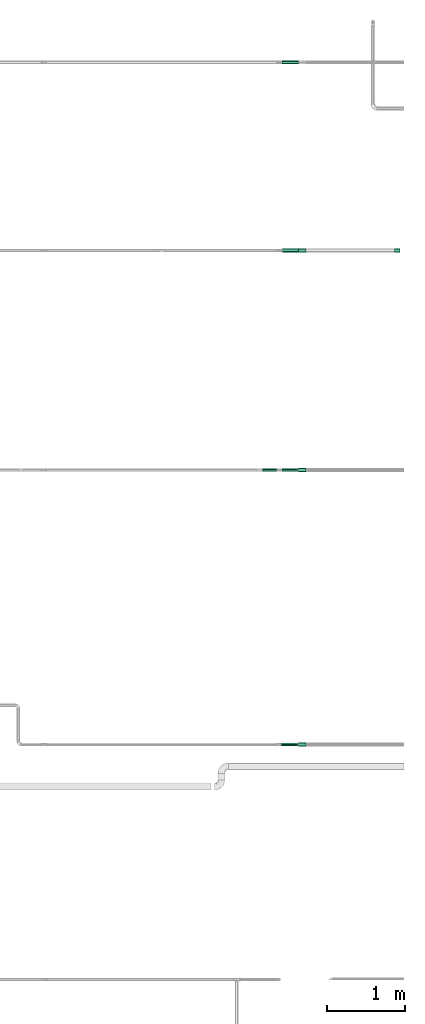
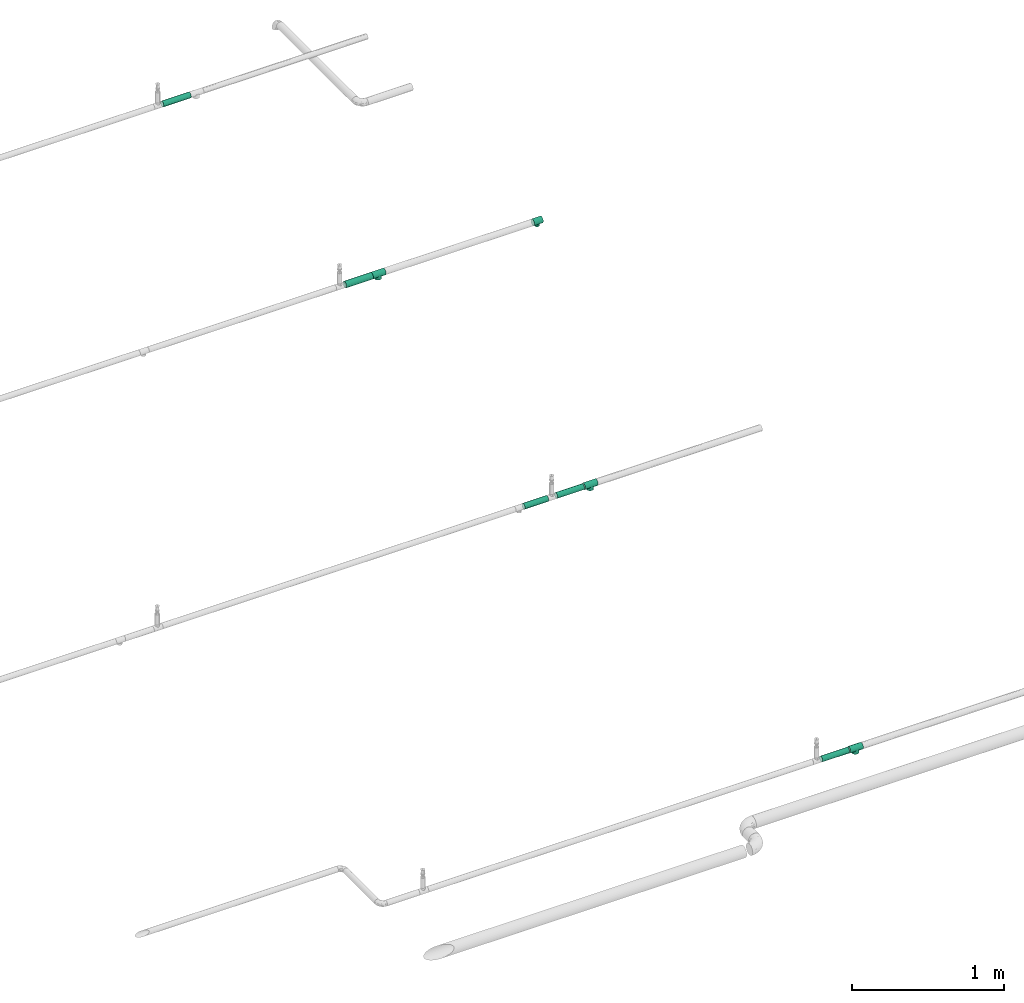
# One storey, part 7 of 94: 5 flow segments, 4 flow fittings.
"""IFC2X3 building model written with IfcOpenShell, lengths in millimetres."""

from ifc_helpers import new_model, entity, si_unit, converted_unit, derived_unit, direction, frame, origin_with_axes, origin_2d_with_axis, place, context, subcontext, project, spatial, hollow_circle, extrude, open_shell, surface_model, source, transform, mapped, type_object, element, save


model = new_model("IFC2X3")

# Units and contexts
model_context = context("Model", 3, precision=0.01, world=frame((0.0, 4.29681676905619e-09, 0.0)), true_north=direction((4.01073788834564e-13, 1.0)))
plan_context = context("Plan", 3, precision=0.01, world=frame((0.0, 4.29681676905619e-09, 0.0)), true_north=direction((4.01073788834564e-13, 1.0)))
body_context = subcontext(model_context, "Body", "Model", "MODEL_VIEW")
ifc_project = project(units=[converted_unit("PLANEANGLEUNIT", "DEGREE", entity("IfcPositiveLengthMeasure", 0.0174532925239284), si_unit("PLANEANGLEUNIT", "RADIAN"), dimensions=[0, 0, 0, 0, 0, 0, 0]), si_unit("AREAUNIT", "SQUARE_METRE"), si_unit("LENGTHUNIT", "METRE", prefix="MILLI"), si_unit("MASSUNIT", "GRAM", prefix="KILO"), si_unit("POWERUNIT", "WATT"), si_unit("PRESSUREUNIT", "PASCAL"), si_unit("FORCEUNIT", "NEWTON", prefix="KILO"), si_unit("ELECTRICCURRENTUNIT", "AMPERE"), si_unit("THERMODYNAMICTEMPERATUREUNIT", "DEGREE_CELSIUS"), si_unit("TIMEUNIT", "SECOND"), si_unit("VOLUMEUNIT", "CUBIC_METRE"), derived_unit("LINEARVELOCITYUNIT", [(si_unit("LENGTHUNIT", "METRE"), 1), (si_unit("TIMEUNIT", "SECOND"), -1)]), derived_unit("VOLUMETRICFLOWRATEUNIT", [(si_unit("VOLUMEUNIT", "CUBIC_METRE"), 1), (si_unit("TIMEUNIT", "SECOND"), -1)]), derived_unit("THERMALTRANSMITTANCEUNIT", [(si_unit("POWERUNIT", "WATT"), 1), (si_unit("THERMODYNAMICTEMPERATUREUNIT", "KELVIN"), -1), (si_unit("AREAUNIT", "SQUARE_METRE"), -1)])], contexts=[model_context, plan_context])

# Site, building, storey
site_placement = place(None, frame((0.0, -4.29681676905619e-09, 0.0), z_axis=(0.0, 0.0, 1.0), x_axis=(1.0, 0.0, 0.0)))
site = spatial("IfcSite", under=ifc_project, at=site_placement, CompositionType="ELEMENT")
building_placement = place(site_placement, frame((0.0, 4.29681676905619e-09, 0.0), z_axis=(0.0, 0.0, 1.0), x_axis=(1.0, 0.0, 0.0)))
building = spatial("IfcBuilding", under=site, at=building_placement, Name="mc-building", CompositionType="ELEMENT")
storey_placement = place(building_placement, frame((0.0, 0.0, 200300.0), z_axis=(0.0, 0.0, 1.0), x_axis=(1.0, 0.0, 0.0)))
storey = spatial("IfcBuildingStorey", under=building, at=storey_placement, Name="Nivå C", CompositionType="ELEMENT", Elevation=200300.0)

# Flow fittings
pipe_fitting_type = type_object("IfcPipeFittingType", Name="magi_pipe_fe_tee_centric_90_NOR", PredefinedType="JUNCTION")
shared_shape_1 = source(origin_with_axes(), body_context, "Body", "SurfaceModel", [
    surface_model("IfcShellBasedSurfaceModel", [(-33.8, 0.0, -24.2), (-33.8, -6.26342, -23.37541), (-33.8, 6.26342, -23.37541), (-33.8, 12.1, -20.95781), (-33.8, 17.11198, -17.11198), (-33.8, 20.95781, -12.1), (-33.8, -23.37541, -6.26342), (-33.8, 23.37541, -6.26342), (-33.8, -17.11198, -17.11198), (-33.8, -20.95781, -12.1), (-33.8, -12.1, -20.95781), (-33.8, -24.2, 0.0), (-33.8, -23.37541, 6.26342), (-33.8, 20.95781, 12.1), (-33.8, 23.37541, 6.26342), (-33.8, 24.2, 0.0), (-33.8, 12.1, 20.95781), (-33.8, 17.11198, 17.11198), (-33.8, -17.11198, 17.11198), (-33.8, 6.26342, 23.37541), (-33.8, -20.95781, 12.1), (-33.8, -12.1, 20.95781), (-33.8, -6.26342, 23.37541), (-33.8, 0.0, 24.2), (33.8, 6.26342, -23.37541), (33.8, -6.26342, -23.37541), (33.8, 0.0, -24.2), (33.8, 17.11198, -17.11198), (33.8, 12.1, -20.95781), (33.8, -23.37541, -6.26342), (33.8, 20.95781, -12.1), (33.8, 23.37541, -6.26342), (33.8, -17.11198, -17.11198), (33.8, -12.1, -20.95781), (33.8, -20.95781, -12.1), (33.8, -24.2, 0.0), (33.8, 24.2, 0.0), (33.8, 23.37541, 6.26342), (33.8, 20.95781, 12.1), (33.8, -23.37541, 6.26342), (33.8, -17.11198, 17.11198), (33.8, 12.1, 20.95781), (33.8, 17.11198, 17.11198), (33.8, 6.26342, 23.37541), (33.8, -20.95781, 12.1), (33.8, -12.1, 20.95781), (33.8, 0.0, 24.2), (33.8, -6.26342, 23.37541), (15.81824, -23.45734, 5.94922), (16.9, -24.2, 0.0), (12.87025, -21.57947, 10.95293), (33.8, -19.0349, 14.60599), (8.52813, -19.30697, 14.59044), (3.03527, -17.5853, 16.6252), (-3.04044, -17.58619, 16.62425), (-8.52961, -19.30762, 14.58958), (-33.8, -19.0349, 14.60599), (-16.9, -24.2, 0.0), (-15.81885, -23.45775, 5.9476), (-12.87368, -21.58151, 10.9489), (3.03527, -17.5853, -16.6252), (33.8, -19.0349, -14.60599), (8.52813, -19.30697, -14.59044), (-8.52961, -19.30762, -14.58958), (-33.8, -19.0349, -14.60599), (12.87025, -21.57947, -10.95293), (-3.04044, -17.58619, -16.62425), (15.81824, -23.45734, -5.94922), (-12.87368, -21.58151, -10.9489), (-15.81885, -23.45775, -5.9476), (4.37404, -36.3, -16.32415), (-16.9, -36.3, 0.0), (0.0, -36.3, -16.9), (14.63583, -36.3, -8.45), (8.45, -36.3, -14.63583), (16.32415, -36.3, -4.37404), (11.9501, -36.3, -11.9501), (-11.9501, -36.3, -11.9501), (-8.45, -36.3, -14.63583), (-4.37404, -36.3, -16.32415), (-14.63583, -36.3, -8.45), (-16.32415, -36.3, -4.37404), (16.9, -36.3, 0.0), (8.45, -36.3, 14.63583), (16.32415, -36.3, 4.37404), (14.63583, -36.3, 8.45), (-8.45, -36.3, 14.63583), (11.9501, -36.3, 11.9501), (4.37404, -36.3, 16.32415), (-16.32415, -36.3, 4.37404), (-11.9501, -36.3, 11.9501), (-14.63583, -36.3, 8.45), (0.0, -36.3, 16.9), (-4.37404, -36.3, 16.32415), (-16.35943, -23.82888, 2.9738), (16.35912, -23.82867, 2.97461), (-0.00259, -17.58575, 16.62472), (16.35912, -23.82867, -2.97461), (-0.00259, -17.58575, -16.62472), (-16.35943, -23.82888, -2.9738)], [open_shell([[[0, 1, 2]], [[3, 2, 4]], [[5, 2, 6]], [[4, 2, 5]], [[7, 5, 6]], [[8, 9, 10]], [[1, 10, 9]], [[1, 9, 2]], [[9, 6, 2]], [[6, 11, 7]], [[11, 12, 7]], [[13, 14, 15]], [[13, 15, 12]], [[16, 17, 18]], [[12, 17, 13]], [[19, 16, 18]], [[20, 18, 12]], [[18, 17, 12]], [[21, 22, 18]], [[23, 18, 22]], [[18, 23, 19]], [[7, 12, 15]], [[24, 25, 26]], [[27, 24, 28]], [[29, 24, 30]], [[30, 24, 27]], [[29, 30, 31]], [[25, 32, 33]], [[32, 25, 34]], [[24, 34, 25]], [[24, 29, 34]], [[31, 35, 29]], [[31, 36, 35]], [[36, 37, 38]], [[39, 36, 38]], [[40, 38, 41]], [[41, 38, 42]], [[40, 41, 43]], [[39, 40, 44]], [[39, 38, 40]], [[45, 46, 47]], [[46, 45, 40]], [[43, 46, 40]], [[36, 39, 35]], [[35, 39, 48]], [[48, 49, 35]], [[39, 50, 48]], [[51, 40, 52]], [[52, 50, 44]], [[53, 52, 40]], [[54, 53, 21]], [[44, 50, 39]], [[55, 18, 56]], [[57, 58, 11]], [[12, 11, 58]], [[58, 59, 12]], [[55, 54, 18]], [[55, 20, 59]], [[20, 55, 56]], [[59, 20, 12]], [[18, 54, 21]], [[52, 44, 51]], [[53, 40, 45]], [[23, 47, 46]], [[22, 45, 47]], [[19, 46, 43]], [[38, 37, 14]], [[17, 41, 42]], [[13, 42, 38]], [[43, 41, 16]], [[15, 37, 36]], [[21, 45, 22]], [[22, 47, 23]], [[19, 23, 46]], [[43, 16, 19]], [[16, 41, 17]], [[13, 17, 42]], [[14, 13, 38]], [[37, 15, 14]], [[45, 21, 53]], [[5, 31, 30]], [[7, 36, 31]], [[4, 30, 27]], [[26, 25, 1]], [[2, 28, 24]], [[0, 24, 26]], [[27, 28, 3]], [[10, 25, 33]], [[15, 36, 7]], [[7, 31, 5]], [[4, 5, 30]], [[27, 3, 4]], [[3, 28, 2]], [[0, 2, 24]], [[1, 0, 26]], [[25, 10, 1]], [[33, 60, 10]], [[61, 34, 62]], [[63, 9, 64]], [[62, 60, 32]], [[34, 65, 62]], [[66, 10, 60]], [[29, 35, 67]], [[67, 65, 29]], [[49, 67, 35]], [[29, 65, 34]], [[66, 63, 8]], [[62, 32, 61]], [[64, 8, 63]], [[63, 68, 9]], [[8, 10, 66]], [[68, 69, 6]], [[69, 11, 6]], [[11, 69, 57]], [[68, 6, 9]], [[60, 33, 32]], [[70, 71, 72]], [[73, 70, 74]], [[73, 75, 70]], [[73, 74, 76]], [[71, 70, 75]], [[72, 77, 78]], [[78, 79, 72]], [[80, 71, 81]], [[77, 72, 80]], [[71, 80, 72]], [[75, 82, 71]], [[83, 82, 84]], [[83, 84, 85]], [[86, 71, 83]], [[83, 85, 87]], [[86, 83, 88]], [[89, 90, 91]], [[90, 89, 86]], [[86, 92, 93]], [[89, 71, 86]], [[88, 92, 86]], [[83, 71, 82]], [[89, 94, 71]], [[59, 91, 90]], [[89, 91, 58]], [[90, 86, 55]], [[89, 58, 94]], [[94, 57, 71]], [[58, 91, 59]], [[95, 48, 84]], [[55, 93, 54]], [[55, 59, 90]], [[92, 53, 96]], [[55, 86, 93]], [[53, 92, 88]], [[83, 52, 88]], [[87, 85, 50]], [[87, 52, 83]], [[48, 85, 84]], [[87, 50, 52]], [[52, 53, 88]], [[82, 95, 84]], [[48, 50, 85]], [[95, 82, 49]], [[92, 54, 93]], [[96, 54, 92]], [[75, 97, 82]], [[65, 73, 76]], [[75, 73, 67]], [[76, 74, 62]], [[97, 49, 82]], [[67, 73, 65]], [[62, 70, 60]], [[62, 65, 76]], [[72, 66, 98]], [[62, 74, 70]], [[99, 71, 57]], [[99, 69, 81]], [[75, 67, 97]], [[79, 66, 72]], [[69, 80, 81]], [[77, 80, 68]], [[72, 60, 70]], [[79, 63, 66]], [[63, 79, 78]], [[78, 77, 63]], [[63, 77, 68]], [[68, 80, 69]], [[71, 99, 81]], [[98, 60, 72]]])]),
])
flow_fitting_placement = place(storey_placement, frame((532007.26147, 416298.62756, 2850.0), z_axis=(0.0, 1.0, 0.0), x_axis=(-1.0, 0.0, 0.0)))
element("IfcFlowFitting", 1, at=flow_fitting_placement, inside=storey, type_object=pipe_fitting_type, Name="magi_pipe_fe_tee_centric_90_NOR", context=body_context, shape_type="MappedRepresentation", body=[
    mapped(shared_shape_1, transform((0.0, 0.0, 0.0), scale=1.0)),
])
shared_shape_2 = source(origin_with_axes(), body_context, "Body", "SurfaceModel", [
    surface_model("IfcShellBasedSurfaceModel", [(-48.4, 12.1, -20.95781), (-48.4, 6.26342, -23.37541), (-48.4, 17.11198, -17.11198), (-48.4, -20.95781, 12.1), (-48.4, -17.11198, 17.11198), (-48.4, -23.37541, 6.26342), (-48.4, 0.0, -24.2), (-48.4, -6.26342, -23.37541), (-48.4, 20.95781, -12.1), (-48.4, -23.37541, -6.26342), (-48.4, 23.37541, -6.26342), (-48.4, -12.1, -20.95781), (-48.4, -17.11198, -17.11198), (-48.4, -20.95781, -12.1), (-48.4, -24.2, 0.0), (-48.4, 20.95781, 12.1), (-48.4, 23.37541, 6.26342), (-48.4, 24.2, 0.0), (-48.4, 12.1, 20.95781), (-48.4, 17.11198, 17.11198), (-48.4, 6.26342, 23.37541), (-48.4, -12.1, 20.95781), (-48.4, -6.26342, 23.37541), (-48.4, 0.0, 24.2), (48.4, 6.26342, -23.37541), (48.4, -6.26342, -23.37541), (48.4, 0.0, -24.2), (48.4, 17.11198, -17.11198), (48.4, 12.1, -20.95781), (48.4, -23.37541, -6.26342), (48.4, 20.95781, -12.1), (48.4, 23.37541, -6.26342), (48.4, -17.11198, -17.11198), (48.4, -12.1, -20.95781), (48.4, -20.95781, -12.1), (48.4, -24.2, 0.0), (48.4, 24.2, 0.0), (48.4, 23.37541, 6.26342), (48.4, 20.95781, 12.1), (48.4, -23.37541, 6.26342), (48.4, -17.11198, 17.11198), (48.4, 12.1, 20.95781), (48.4, 17.11198, 17.11198), (48.4, 6.26342, 23.37541), (48.4, -20.95781, 12.1), (48.4, -12.1, 20.95781), (48.4, 0.0, 24.2), (48.4, -6.26342, 23.37541), (23.32218, -23.32218, 6.45878), (24.2, -24.2, 0.0), (20.94524, -20.94524, 12.12176), (13.56365, -13.56365, 20.04164), (17.56065, -17.56065, 16.65123), (-24.2, -24.2, 0.0), (-23.32218, -23.32218, 6.45878), (-20.94524, -20.94524, 12.12176), (-17.56065, -17.56065, 16.65123), (-13.56365, -13.56365, 20.04164), (-9.20594, -9.20594, 22.38059), (9.20594, -9.20594, 22.38059), (4.647, -4.647, 23.74964), (0.0, 0.0, 24.2), (-4.647, -4.647, 23.74964), (4.647, -4.647, -23.74964), (0.0, 0.0, -24.2), (-4.647, -4.647, -23.74964), (-9.20594, -9.20594, -22.38059), (9.20594, -9.20594, -22.38059), (13.56365, -13.56365, -20.04164), (17.56065, -17.56065, -16.65123), (20.94524, -20.94524, -12.12176), (23.32218, -23.32218, -6.45878), (-13.56365, -13.56365, -20.04164), (-17.56065, -17.56065, -16.65123), (-23.32218, -23.32218, -6.45878), (-20.94524, -20.94524, -12.12176), (0.0, -36.3, -24.2), (6.26342, -36.3, -23.37541), (12.1, -36.3, -20.95781), (12.1, -36.3, 20.95781), (17.11198, -36.3, -17.11198), (20.95781, -36.3, -12.1), (23.37541, -36.3, -6.26342), (-12.1, -36.3, -20.95781), (-20.95781, -36.3, -12.1), (-17.11198, -36.3, -17.11198), (-6.26342, -36.3, -23.37541), (-23.37541, -36.3, -6.26342), (-24.2, -36.3, 0.0), (24.2, -36.3, 0.0), (23.37541, -36.3, 6.26342), (20.95781, -36.3, 12.1), (-23.37541, -36.3, 6.26342), (17.11198, -36.3, 17.11198), (6.26342, -36.3, 23.37541), (-17.11198, -36.3, 17.11198), (-20.95781, -36.3, 12.1), (-12.1, -36.3, 20.95781), (0.0, -36.3, 24.2), (-6.26342, -36.3, 23.37541)], [open_shell([[[0, 1, 2]], [[3, 4, 5]], [[6, 7, 1]], [[8, 1, 9]], [[2, 1, 8]], [[10, 8, 9]], [[11, 12, 7]], [[13, 7, 12]], [[7, 13, 1]], [[13, 9, 1]], [[9, 14, 10]], [[14, 5, 10]], [[15, 16, 17]], [[15, 17, 5]], [[18, 19, 4]], [[5, 19, 15]], [[20, 18, 4]], [[4, 19, 5]], [[21, 22, 4]], [[23, 4, 22]], [[4, 23, 20]], [[10, 5, 17]], [[24, 25, 26]], [[27, 24, 28]], [[29, 24, 30]], [[30, 24, 27]], [[29, 30, 31]], [[25, 32, 33]], [[32, 25, 34]], [[24, 34, 25]], [[24, 29, 34]], [[31, 35, 29]], [[31, 36, 35]], [[36, 37, 38]], [[39, 36, 38]], [[40, 38, 41]], [[41, 38, 42]], [[40, 41, 43]], [[39, 40, 44]], [[39, 38, 40]], [[45, 46, 47]], [[46, 45, 40]], [[43, 46, 40]], [[36, 39, 35]], [[39, 44, 48]], [[35, 39, 49]], [[49, 39, 48]], [[44, 50, 48]], [[40, 45, 51]], [[50, 44, 52]], [[51, 52, 40]], [[52, 44, 40]], [[53, 54, 5]], [[53, 5, 14]], [[5, 54, 3]], [[54, 55, 3]], [[56, 57, 4]], [[4, 3, 56]], [[4, 57, 21]], [[56, 3, 55]], [[21, 57, 58]], [[51, 45, 59]], [[60, 46, 61]], [[59, 47, 60]], [[47, 59, 45]], [[60, 47, 46]], [[61, 46, 43]], [[38, 37, 16]], [[19, 41, 42]], [[15, 42, 38]], [[43, 41, 18]], [[17, 37, 36]], [[62, 61, 23]], [[62, 22, 58]], [[22, 62, 23]], [[58, 22, 21]], [[61, 20, 23]], [[43, 20, 61]], [[18, 20, 43]], [[18, 41, 19]], [[15, 19, 42]], [[16, 15, 38]], [[37, 17, 16]], [[27, 2, 30]], [[31, 10, 36]], [[31, 30, 8]], [[0, 27, 28]], [[26, 25, 63]], [[26, 64, 24]], [[64, 26, 63]], [[28, 24, 1]], [[64, 1, 24]], [[10, 31, 8]], [[30, 2, 8]], [[2, 27, 0]], [[36, 10, 17]], [[65, 66, 7]], [[6, 1, 64]], [[6, 65, 7]], [[66, 11, 7]], [[1, 0, 28]], [[6, 64, 65]], [[63, 25, 67]], [[33, 32, 68]], [[69, 68, 32]], [[34, 70, 69]], [[69, 32, 34]], [[33, 68, 67]], [[29, 35, 49]], [[29, 71, 34]], [[71, 29, 49]], [[34, 71, 70]], [[72, 11, 66]], [[72, 12, 11]], [[12, 72, 73]], [[12, 73, 13]], [[74, 53, 9]], [[75, 74, 13]], [[74, 9, 13]], [[9, 53, 14]], [[75, 13, 73]], [[33, 67, 25]], [[76, 77, 78]], [[79, 76, 78]], [[80, 81, 82]], [[80, 82, 78]], [[79, 83, 76]], [[83, 84, 85]], [[83, 86, 76]], [[83, 87, 84]], [[87, 83, 88]], [[83, 79, 88]], [[89, 78, 82]], [[89, 90, 91]], [[89, 91, 79]], [[79, 92, 88]], [[79, 91, 93]], [[92, 79, 94]], [[92, 95, 96]], [[92, 94, 95]], [[97, 98, 99]], [[98, 97, 95]], [[94, 98, 95]], [[79, 78, 89]], [[88, 92, 53]], [[54, 53, 92]], [[95, 97, 57]], [[54, 92, 96]], [[95, 56, 96]], [[58, 97, 99]], [[55, 54, 96]], [[56, 55, 96]], [[58, 57, 97]], [[98, 61, 62]], [[58, 99, 62]], [[56, 95, 57]], [[62, 99, 98]], [[60, 98, 94]], [[79, 59, 94]], [[91, 90, 48]], [[52, 93, 91]], [[51, 79, 93]], [[49, 90, 89]], [[59, 60, 94]], [[51, 59, 79]], [[49, 48, 90]], [[50, 52, 91]], [[48, 50, 91]], [[51, 93, 52]], [[98, 60, 61]], [[89, 82, 49]], [[71, 49, 82]], [[69, 81, 80]], [[80, 78, 68]], [[81, 71, 82]], [[67, 78, 77]], [[70, 71, 81]], [[69, 70, 81]], [[67, 68, 78]], [[76, 64, 63]], [[67, 77, 63]], [[69, 80, 68]], [[63, 77, 76]], [[65, 76, 86]], [[83, 66, 86]], [[84, 87, 74]], [[73, 85, 84]], [[72, 83, 85]], [[53, 87, 88]], [[66, 65, 86]], [[72, 66, 83]], [[53, 74, 87]], [[75, 73, 84]], [[74, 75, 84]], [[72, 85, 73]], [[76, 65, 64]]])]),
])
for number, where, z_axis, x_axis, name in (
    (2, (530794.93912, 410000.1625, 2850.0), (0.0, 1.0, 0.0), (-1.0, 0.0, 0.0), "magi_pipe_fe_tee_centric_90_NOR"),
    (3, (530794.93912, 413500.1625, 2850.0), (0.0, -1.0, 0.0), (1.0, 0.0, 0.0), "magi_pipe_fe_tee_centric_90_NOR"),
    (4, (530794.93912, 416298.62756, 2850.0), (0.0, 1.0, 0.0), (-1.0, 0.0, 0.0), "magi_pipe_fe_tee_centric_90_NOR"),
):
    element("IfcFlowFitting", number, at=place(storey_placement, frame(where, z_axis=z_axis, x_axis=x_axis)), inside=storey, type_object=pipe_fitting_type, Name=name, context=body_context, shape_type="MappedRepresentation", body=[
        mapped(shared_shape_2, transform((0.0, 0.0, 0.0), scale=1.0)),
    ])

# Flow segments
pipe_segment_type = type_object("IfcPipeSegmentType", Name="Stålrør normaltykke", PredefinedType="RIGIDSEGMENT")
shared_shape_3 = source(origin_with_axes(), body_context, "Body", "SweptSolid", [
    extrude(hollow_circle(Radius=21.2, WallThickness=2.0, at=origin_2d_with_axis()), frame((0.0, 0.0, 0.0), z_axis=(1.0, 0.0, 0.0), x_axis=(0.0, 1.0, 0.0)), (0.0, 0.0, 1.0), 209.6),
])
flow_segment_1_placement = place(storey_placement, frame((530746.53912, 418699.60987, 2850.0), z_axis=(0.0, 0.0, 1.0), x_axis=(-1.0, 0.0, 0.0)))
element("IfcFlowSegment", 5, at=flow_segment_1_placement, inside=storey, type_object=pipe_segment_type, Name="Stålrør normaltykke", context=body_context, shape_type="MappedRepresentation", body=[
    mapped(shared_shape_3, transform((0.0, 0.0, 0.0), scale=1.0)),
])
shared_shape_4 = source(origin_with_axes(), body_context, "Body", "SweptSolid", [
    extrude(hollow_circle(Radius=21.2, WallThickness=2.0, at=origin_2d_with_axis()), frame((0.0, 0.0, 0.0), z_axis=(1.0, 0.0, 0.0), x_axis=(0.0, 1.0, 0.0)), (0.0, 0.0, 1.0), 204.5),
])
flow_segment_2_placement = place(storey_placement, frame((530536.06879, 413500.1625, 2850.0), z_axis=(0.0, 0.0, 1.0), x_axis=(1.0, 0.0, 0.0)))
element("IfcFlowSegment", 6, at=flow_segment_2_placement, inside=storey, type_object=pipe_segment_type, Name="Stålrør normaltykke", context=body_context, shape_type="MappedRepresentation", body=[
    mapped(shared_shape_4, transform((0.0, 0.0, 0.0), scale=1.0)),
])
shared_shape_5 = source(origin_with_axes(), body_context, "Body", "SweptSolid", [
    extrude(hollow_circle(Radius=21.2, WallThickness=2.0, at=origin_2d_with_axis()), frame((0.0, 0.0, 0.0), z_axis=(1.0, 0.0, 0.0), x_axis=(0.0, 1.0, 0.0)), (0.0, 0.0, 1.0), 180.9),
])
flow_segment_3_placement = place(storey_placement, frame((530287.54314, 413500.1625, 2850.0), z_axis=(0.0, 0.0, 1.0), x_axis=(1.0, 0.0, 0.0)))
element("IfcFlowSegment", 7, at=flow_segment_3_placement, inside=storey, type_object=pipe_segment_type, Name="Stålrør normaltykke", context=body_context, shape_type="MappedRepresentation", body=[
    mapped(shared_shape_5, transform((0.0, 0.0, 0.0), scale=1.0)),
])
shared_shape_6 = source(origin_with_axes(), body_context, "Body", "SweptSolid", [
    extrude(hollow_circle(Radius=21.2, WallThickness=2.0, at=origin_2d_with_axis()), frame((0.0, 0.0, 0.0), z_axis=(1.0, 0.0, 0.0), x_axis=(0.0, 1.0, 0.0)), (0.0, 0.0, 1.0), 206.4),
])
flow_segment_4_placement = place(storey_placement, frame((530534.13534, 410000.1625, 2850.0), z_axis=(0.0, 0.0, 1.0), x_axis=(1.0, 0.0, 0.0)))
element("IfcFlowSegment", 8, at=flow_segment_4_placement, inside=storey, type_object=pipe_segment_type, Name="Stålrør normaltykke", context=body_context, shape_type="MappedRepresentation", body=[
    mapped(shared_shape_6, transform((0.0, 0.0, 0.0), scale=1.0)),
])
shared_shape_7 = source(origin_with_axes(), body_context, "Body", "SweptSolid", [
    extrude(hollow_circle(Radius=24.1, WallThickness=2.0, at=origin_2d_with_axis()), frame((0.0, 0.0, 0.0), z_axis=(1.0, 0.0, 0.0), x_axis=(0.0, 1.0, 0.0)), (0.0, 0.0, 1.0), 204.5),
])
flow_segment_5_placement = place(storey_placement, frame((530542.06879, 416298.62756, 2850.0), z_axis=(0.0, 0.0, 1.0), x_axis=(1.0, 0.0, 0.0)))
element("IfcFlowSegment", 9, at=flow_segment_5_placement, inside=storey, type_object=pipe_segment_type, Name="Stålrør normaltykke", context=body_context, shape_type="MappedRepresentation", body=[
    mapped(shared_shape_7, transform((0.0, 0.0, 0.0), scale=1.0)),
])

save(model, "model.ifc")
